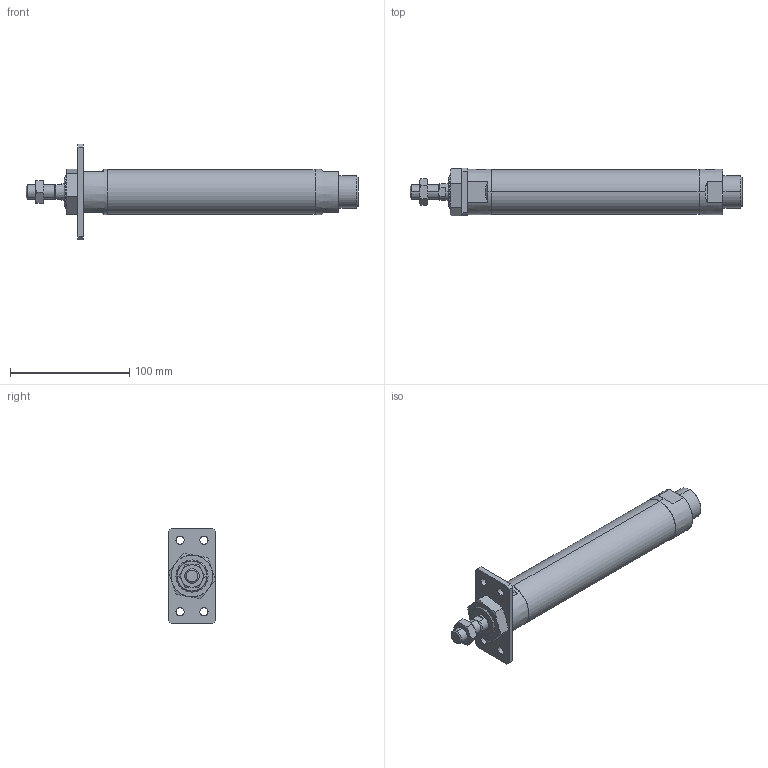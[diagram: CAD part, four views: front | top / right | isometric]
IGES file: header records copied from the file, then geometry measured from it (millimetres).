
Start section: SolidWorks IGES file using analytic representation for surfaces
Global section: file name: C:\Users\Toshiba\Desktop\J#2-32-125-A.IGS; native system: SolidWorks 2014; preprocessor: SolidWorks 2014; author: Toshiba; date: 160308.153803; units: millimetre
Bounding box: 278 x 40 x 80 mm (x, y, z)
Surface area: 43546.9 mm2 (no closed solid volume)
Topology: 0 solids, 0 shells, 114 faces, 2060 edges, 2056 vertices
Faces by surface type: bspline 67, revolution 47
